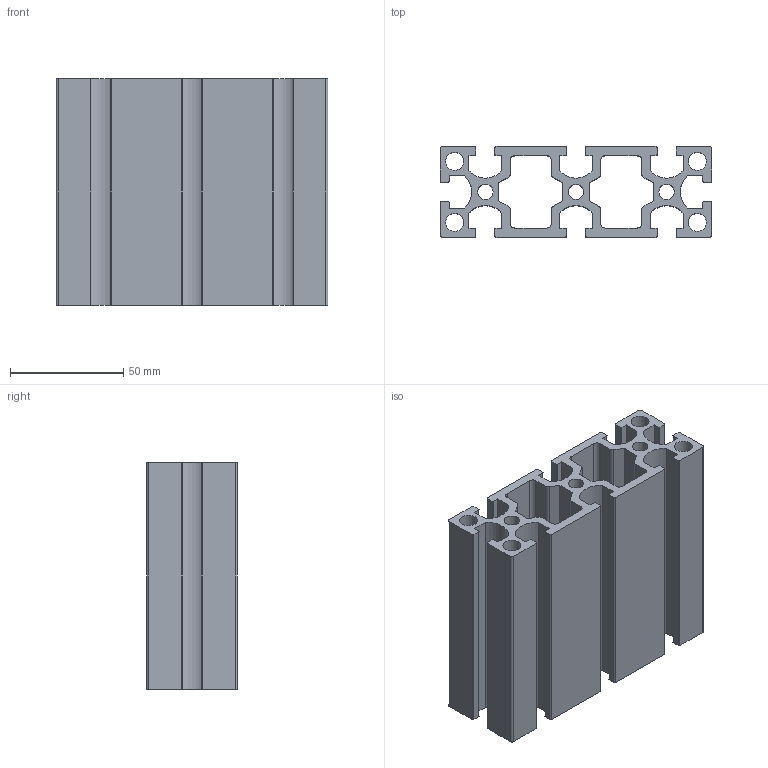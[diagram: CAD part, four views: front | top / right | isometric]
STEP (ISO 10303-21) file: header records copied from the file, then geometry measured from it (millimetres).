
FILE_DESCRIPTION(/* description */ (''),/* implementation_level */ '2;1');
FILE_NAME(/* name */ 'D:\硯聰\Inv材料庫-3D\AM\AM8-80120\AM8-80120_100L.stp',/* time_stamp */ '2020-06-24T15:02:17+08:00',/* author */ ('Owner'),/* organization */ (''),/* preprocessor_version */ 'ST-DEVELOPER v16.1',/* originating_system */ 'Autodesk Inventor 2016',/* authorisation */ '');
FILE_SCHEMA (('AUTOMOTIVE_DESIGN { 1 0 10303 214 3 1 1 }'));
Length unit declared in the file: millimetre
Products named in the file (1): AM8-80120_100L
Bounding box: 120 x 40 x 100 mm (x, y, z)
Volume: 181313.2 mm3; surface area: 101059.3 mm2
Topology: 1 solids, 1 shells, 153 faces, 453 edges, 302 vertices
Faces by surface type: plane 86, cylinder 67
Full cylindrical faces by diameter (mm): 6.8 x3, 8 x4
Entity records: 5166 total; most frequent: CARTESIAN_POINT 902, ORIENTED_EDGE 892, DIRECTION 888, EDGE_CURVE 446, LINE 312, VECTOR 312, VERTEX_POINT 302, AXIS2_PLACEMENT_3D 288
